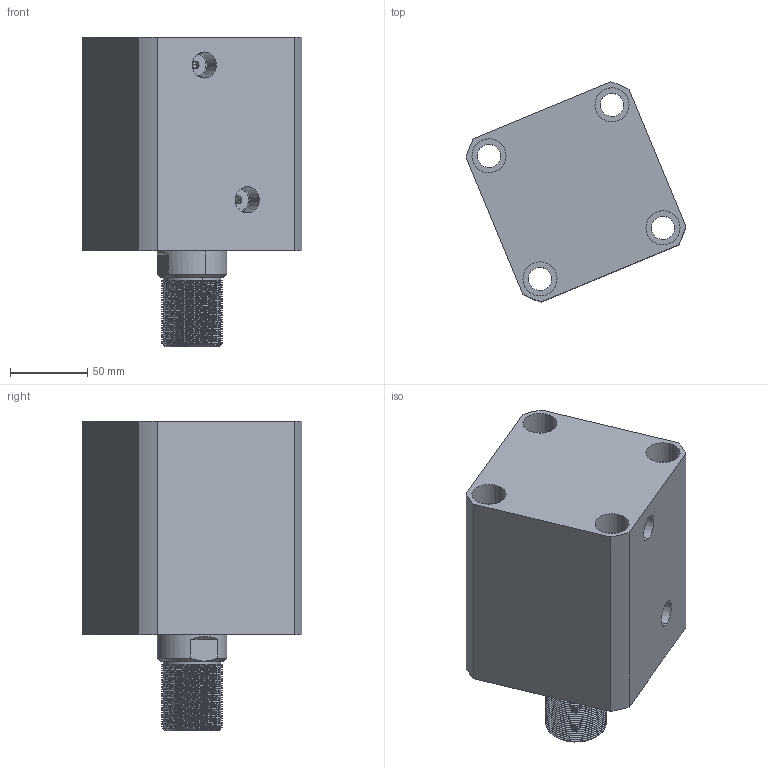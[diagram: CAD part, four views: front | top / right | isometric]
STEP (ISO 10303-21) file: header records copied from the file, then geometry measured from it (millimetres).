
FILE_DESCRIPTION (( 'STEP AP214' ), '1' );
FILE_NAME ('chtb-sd80x60n_asm.STEP', '2018-05-26T08:54:49', ( 'Windows' ), ( 'Microsoft' ), 'SwSTEP 2.0', 'SolidWorks 2015', '' );
FILE_SCHEMA (( 'AUTOMOTIVE_DESIGN' ));
Length unit declared in the file: millimetre
Products named in the file (4): CHTB-SD80QG; chtb-sd80x60n_asm; CHTB-SD80X60NHSG; CHTB-SD80X60NBT
Assembly tree (3 placements, depth 2):
  chtb-sd80x60n_asm
    CHTB-SD80QG
    CHTB-SD80X60NBT
    CHTB-SD80X60NHSG
Bounding box: 142.06 x 142.06 x 200 mm (x, y, z)
Volume: 1499161.9 mm3; surface area: 217349.6 mm2
Topology: 3 solids, 3 shells, 253 faces, 689 edges, 462 vertices
Faces by surface type: cylinder 159, plane 40, cone 20, torus 18, bspline 16
Entity records: 20271 total; most frequent: CARTESIAN_POINT 14293, ORIENTED_EDGE 1370, DIRECTION 1078, EDGE_CURVE 685, VERTEX_POINT 462, AXIS2_PLACEMENT_3D 439, EDGE_LOOP 291, FACE_OUTER_BOUND 253
